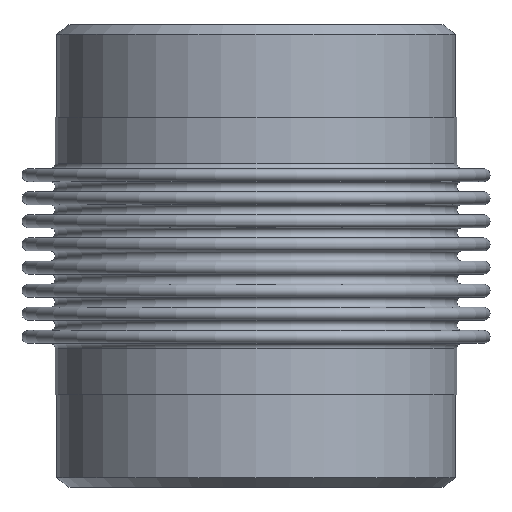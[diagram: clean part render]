
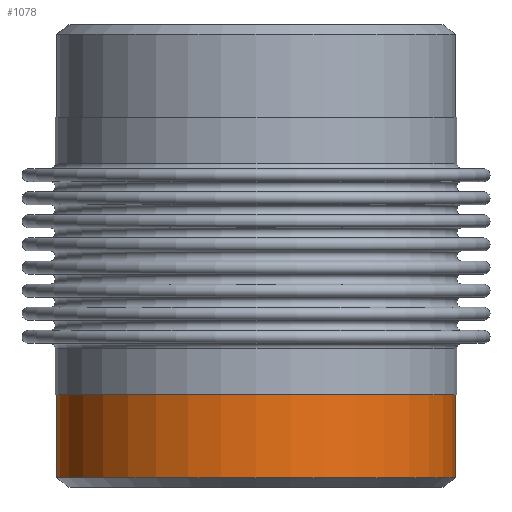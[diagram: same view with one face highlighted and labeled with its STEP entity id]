
A CAD part, front view. The second image highlights one B-rep face of the part: STEP entity #1078.
In plain terms, the highlighted cylindrical face has radius 109.537 mm (diameter 219.075 mm), a full revolution.
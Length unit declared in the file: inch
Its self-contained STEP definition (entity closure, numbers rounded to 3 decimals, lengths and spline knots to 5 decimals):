
#53=LINE('',#1977,#61);
#61=VECTOR('',#1678,4.3125);
#68=CYLINDRICAL_SURFACE('',#1291,4.3125);
#181=FACE_OUTER_BOUND('',#295,.T.);
#295=EDGE_LOOP('',(#857,#858,#859,#860,#861));
#309=CIRCLE('',#1111,4.3125);
#416=CIRCLE('',#1288,4.3125);
#417=CIRCLE('',#1289,4.3125);
#427=VERTEX_POINT('',#1717);
#500=VERTEX_POINT('',#1969);
#501=VERTEX_POINT('',#1970);
#511=EDGE_CURVE('',#427,#427,#309,.T.);
#620=EDGE_CURVE('',#500,#501,#416,.T.);
#621=EDGE_CURVE('',#501,#500,#417,.T.);
#624=EDGE_CURVE('',#501,#427,#53,.T.);
#857=ORIENTED_EDGE('',*,*,#620,.F.);
#858=ORIENTED_EDGE('',*,*,#621,.F.);
#859=ORIENTED_EDGE('',*,*,#624,.T.);
#860=ORIENTED_EDGE('',*,*,#511,.T.);
#861=ORIENTED_EDGE('',*,*,#624,.F.);
#1078=ADVANCED_FACE('',(#181),#68,.T.);
#1111=AXIS2_PLACEMENT_3D('',#1718,#1313,#1314);
#1288=AXIS2_PLACEMENT_3D('',#1971,#1669,#1670);
#1289=AXIS2_PLACEMENT_3D('',#1972,#1671,#1672);
#1291=AXIS2_PLACEMENT_3D('',#1976,#1676,#1677);
#1313=DIRECTION('center_axis',(0.,0.,
-1.));
#1314=DIRECTION('ref_axis',(1.,0.,0.));
#1669=DIRECTION('center_axis',(0.,0.,-1.));
#1670=DIRECTION('ref_axis',(-1.,0.,0.));
#1671=DIRECTION('center_axis',(0.,0.,-1.));
#1672=DIRECTION('ref_axis',(-1.,0.,0.));
#1676=DIRECTION('center_axis',(0.,0.,-1.));
#1677=DIRECTION('ref_axis',(1.,0.,0.));
#1678=DIRECTION('',(0.,0.,1.));
#1717=CARTESIAN_POINT('',(-4.3125,0.,-6.5));
#1718=CARTESIAN_POINT('Origin',(0.,0.,
-6.5));
#1969=CARTESIAN_POINT('',(4.3125,0.,-8.30088));
#1970=CARTESIAN_POINT('',(-4.3125,0.,-8.30088));
#1971=CARTESIAN_POINT('Origin',(0.,0.,
-8.30088));
#1972=CARTESIAN_POINT('Origin',(0.,0.,
-8.30088));
#1976=CARTESIAN_POINT('Origin',(0.,0.,
-7.));
#1977=CARTESIAN_POINT('',(-4.3125,0.,-7.));
